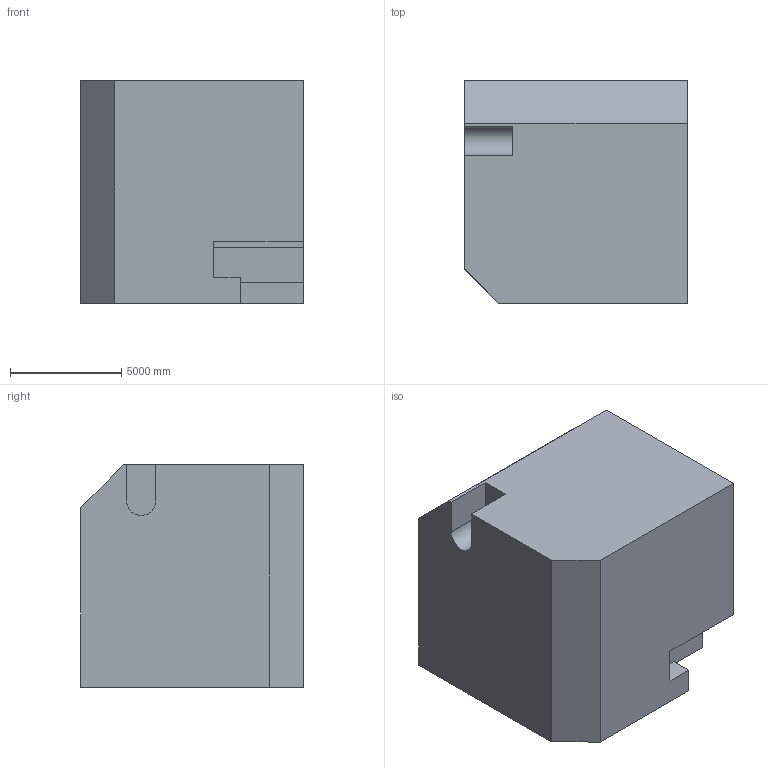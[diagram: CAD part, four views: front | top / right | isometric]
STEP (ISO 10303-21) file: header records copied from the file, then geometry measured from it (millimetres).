
FILE_DESCRIPTION (( 'STEP AP203' ), '1' );
FILE_NAME ('746.STEP', '2022-08-04T15:46:11', ( 'user' ), ( '' ), 'SwSTEP 2.0', 'SolidWorks 2021', '' );
FILE_SCHEMA (( 'CONFIG_CONTROL_DESIGN' ));
Length unit declared in the file: centimetre
Products named in the file (1): 746
Bounding box: 10000 x 10000 x 10000 mm (x, y, z)
Volume: 913321443383.4 mm3; surface area: 649754837.2 mm2
Topology: 1 solids, 1 shells, 29 faces, 75 edges, 50 vertices
Faces by surface type: plane 24, cylinder 5
Entity records: 956 total; most frequent: CARTESIAN_POINT 155, ORIENTED_EDGE 150, DIRECTION 145, EDGE_CURVE 75, VECTOR 65, LINE 65, VERTEX_POINT 50, AXIS2_PLACEMENT_3D 40
